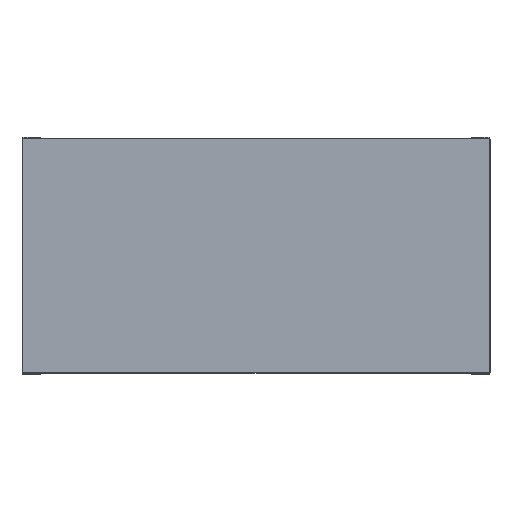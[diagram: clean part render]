
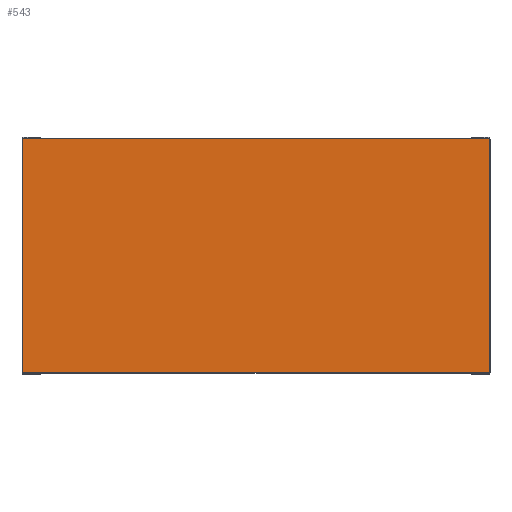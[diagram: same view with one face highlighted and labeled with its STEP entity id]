
A CAD part, top view. The second image highlights one B-rep face of the part: STEP entity #543.
In plain terms, the highlighted planar face has unit normal (0, 0, 1).
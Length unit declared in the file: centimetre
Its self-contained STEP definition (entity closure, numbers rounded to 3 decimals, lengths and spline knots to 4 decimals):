
#157=B_SPLINE_CURVE_WITH_KNOTS($,1,(#4800,#4801),.UNSPECIFIED.,.F.,.F.,(2,
2),(-896.,0.),.UNSPECIFIED.);
#161=B_SPLINE_CURVE_WITH_KNOTS($,1,(#4808,#4809),.UNSPECIFIED.,.F.,.F.,(2,
2),(-1790.,0.),.UNSPECIFIED.);
#164=B_SPLINE_CURVE_WITH_KNOTS($,1,(#4814,#4815),.UNSPECIFIED.,.F.,.F.,(2,
2),(-896.,0.),.UNSPECIFIED.);
#166=B_SPLINE_CURVE_WITH_KNOTS($,1,(#4818,#4819),.UNSPECIFIED.,.F.,.F.,(2,
2),(-1790.,0.),.UNSPECIFIED.);
#543=ADVANCED_FACE($,(#733),#2757,.T.);
#733=FACE_OUTER_BOUND($,#923,.T.);
#923=EDGE_LOOP($,(#1376,#1377,#1378,#1379));
#1376=ORIENTED_EDGE($,*,*,#2102,.F.);
#1377=ORIENTED_EDGE($,*,*,#2106,.F.);
#1378=ORIENTED_EDGE($,*,*,#2109,.F.);
#1379=ORIENTED_EDGE($,*,*,#2111,.F.);
#2102=EDGE_CURVE($,#2498,#2499,#157,.T.);
#2106=EDGE_CURVE($,#2501,#2498,#161,.T.);
#2109=EDGE_CURVE($,#2503,#2501,#164,.T.);
#2111=EDGE_CURVE($,#2499,#2503,#166,.T.);
#2498=VERTEX_POINT($,#4828);
#2499=VERTEX_POINT($,#4829);
#2501=VERTEX_POINT($,#4831);
#2503=VERTEX_POINT($,#4833);
#2757=PLANE($,#3047);
#3047=AXIS2_PLACEMENT_3D($,#4825,#3220,$);
#3220=DIRECTION($,(0.,0.,1.));
#4800=CARTESIAN_POINT($,(0.55,65.3,75.0514));
#4801=CARTESIAN_POINT($,(0.55,154.9,75.0514));
#4808=CARTESIAN_POINT($,(179.55,65.3,75.0514));
#4809=CARTESIAN_POINT($,(0.55,65.3,75.0514));
#4814=CARTESIAN_POINT($,(179.55,154.9,75.0514));
#4815=CARTESIAN_POINT($,(179.55,65.3,75.0514));
#4818=CARTESIAN_POINT($,(0.55,154.9,75.0514));
#4819=CARTESIAN_POINT($,(179.55,154.9,75.0514));
#4825=CARTESIAN_POINT($,(0.55,154.9,75.0514));
#4828=CARTESIAN_POINT($,(0.55,65.3,75.0514));
#4829=CARTESIAN_POINT($,(0.55,154.9,75.0514));
#4831=CARTESIAN_POINT($,(179.55,65.3,75.0514));
#4833=CARTESIAN_POINT($,(179.55,154.9,75.0514));
